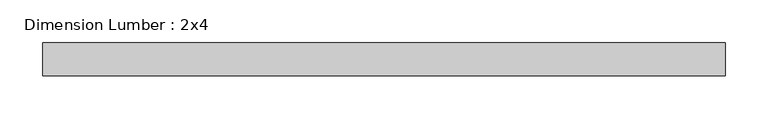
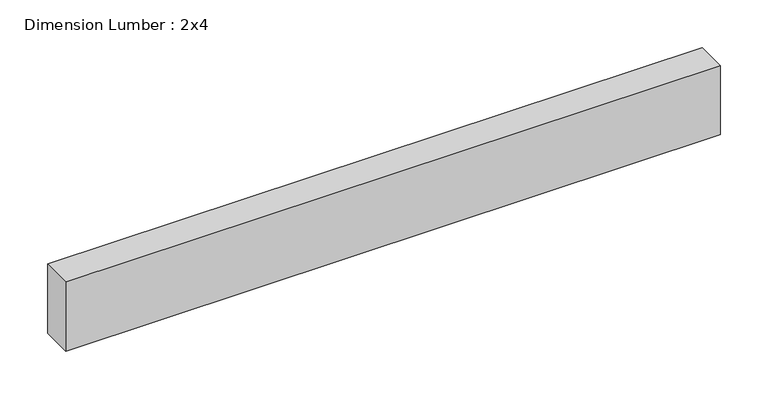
"""IFC4 building model written with IfcOpenShell, lengths in millimetres: beam geometry, Dimension Lumber : 2x4."""

from ifc_helpers import new_model, si_unit, frame, origin, place, context, project, spatial, polyline, outline, extrude, source, transform, mapped, element, save


def dimension_lumber_2x4_ecf07961(model_context):
    return source(origin(), model_context, "Body", "SweptSolid", [
        extrude(outline(polyline([(396.875, 19.05), (396.875, -19.05), (-396.875, -19.05), (-396.875, 19.05), (396.875, 19.05)])), frame((0.0, 0.0, -44.45), z_axis=(0.0, 0.0, 1.0), x_axis=(1.0, 0.0, 0.0)), (0.0, 0.0, 1.0), 88.9),
    ])


if __name__ == "__main__":
    model = new_model("IFC4")
    model_context = context("Model", 3, world=origin())
    ifc_project = project(units=[si_unit("LENGTHUNIT", "METRE", prefix="MILLI")], contexts=[model_context])
    site = spatial("IfcSite", under=ifc_project)
    building = spatial("IfcBuilding", under=site)
    placement = place(None, origin())
    dimension_lumber_2x4_shape = dimension_lumber_2x4_ecf07961(model_context)
    element("IfcBeam", 1, ObjectType="Dimension Lumber : 2x4", at=placement, inside=building, context=model_context, shape_type="MappedRepresentation", body=[
        mapped(dimension_lumber_2x4_shape, transform((0.0, 0.0, 0.0), x_axis=(1.0, 0.0, 0.0), y_axis=(0.0, 1.0, 0.0), z_axis=(0.0, 0.0, 1.0))),
    ])
    save(model, "model.ifc")
